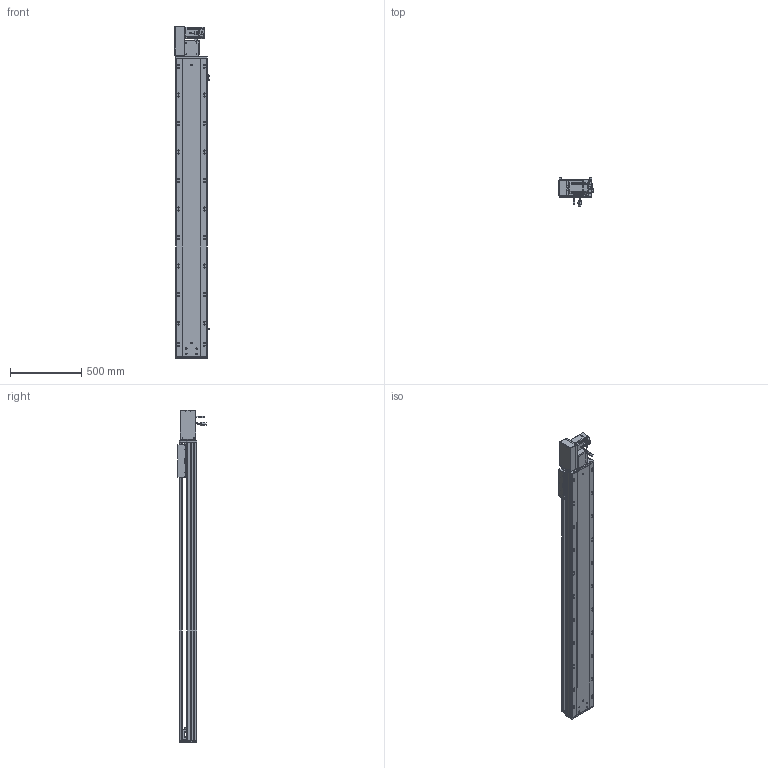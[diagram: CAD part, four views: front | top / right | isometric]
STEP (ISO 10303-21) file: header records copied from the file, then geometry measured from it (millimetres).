
FILE_DESCRIPTION (( 'STEP AP203' ), '1' );
FILE_NAME ('RY220-T-300-LK.SLDASM_1750.step', '2022-07-25T08:14:53', ( '' ), ( '' ), 'SwSTEP 2.0', 'SolidWorks 2016', '' );
FILE_SCHEMA (( 'CONFIG_CONTROL_DESIGN' ));
Length unit declared in the file: millimetre
Products named in the file (14): RY220翋肮祭謫釱; RY220圉猾敕々湍臏賑輸; 覜茼ん672; RY220-T-湍謫欶(鍼踢); 110A-T-肮祭謫釱傷裔; RY220-T-300-奻裔啣_1750; RY220-T-300-LK.SLDASM_1750; RY220翋肮祭謫裔啣; RY220-T菁釱-300_1750; 滅袉蝶18-15; RY220-同步轮副支撑座6304×2; RY220-T-蛌殏萇儂假蚾啣(750W); RY220-俋离672覜茼んえ; 怢湛750W_ECMA-CX0807ES
Assembly tree (18 placements, depth 2):
  RY220-T-300-LK.SLDASM_1750
    RY220-T菁釱-300_1750
    RY220翋肮祭謫釱
    覜茼ん672  x3
    RY220圉猾敕々湍臏賑輸
    RY220-T-300-奻裔啣_1750
    RY220-俋离672覜茼んえ
    滅袉蝶18-15  x3
    RY220翋肮祭謫裔啣  x2
    110A-T-肮祭謫釱傷裔
    怢湛750W_ECMA-CX0807ES
    RY220-T-湍謫欶(鍼踢)
    RY220-T-蛌殏萇儂假蚾啣(750W)
    RY220-同步轮副支撑座6304×2
Bounding box: 239.7 x 198.77 x 2329 mm (x, y, z)
Volume: 17114230.1 mm3; surface area: 5162238.7 mm2
Topology: 19 solids, 19 shells, 2776 faces, 7667 edges, 4838 vertices
Faces by surface type: cylinder 1328, plane 1069, cone 297, bspline 56, sphere 16, torus 10
Entity records: 92435 total; most frequent: CARTESIAN_POINT 26245, ORIENTED_EDGE 13722, DIRECTION 13084, EDGE_CURVE 6861, AXIS2_PLACEMENT_3D 4666, VERTEX_POINT 4462, VECTOR 3752, LINE 3752
